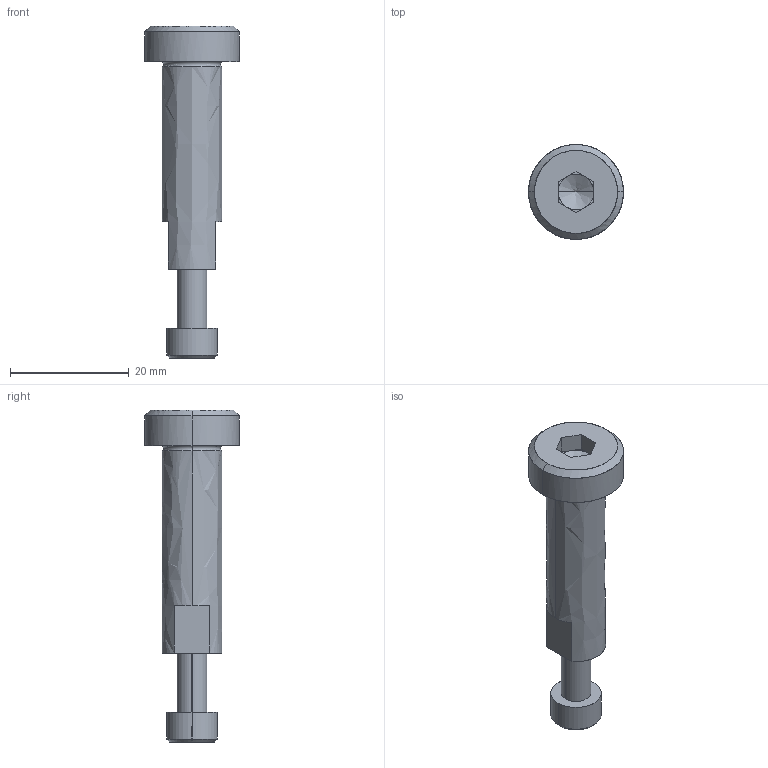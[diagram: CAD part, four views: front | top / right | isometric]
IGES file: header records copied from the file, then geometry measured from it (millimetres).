
Global section: file name: E:\UnigraphicsGraphicData\MISUMI_PRESS-PARTS\IGES\3d_sbt10-35_05088_r00.igs; native system: NX V5.0; preprocessor: UGS NX IGES V5.0; author: MISUMI; date: 20110105.162432; units: millimetre
Bounding box: 16 x 16 x 56 mm (x, y, z)
Surface area: 2760.2 mm2 (no closed solid volume)
Topology: 0 solids, 0 shells, 56 faces, 300 edges, 296 vertices
Faces by surface type: bspline 56
